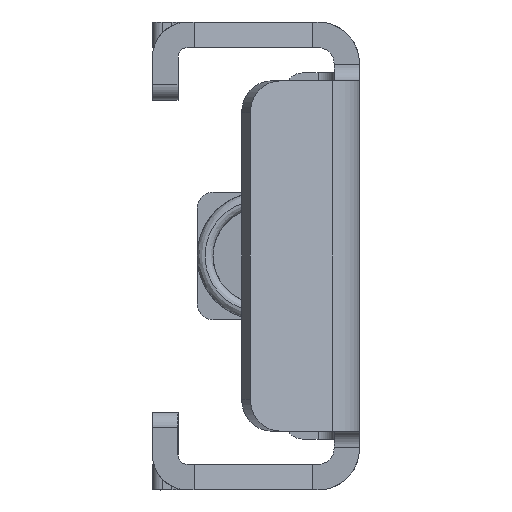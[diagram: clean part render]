
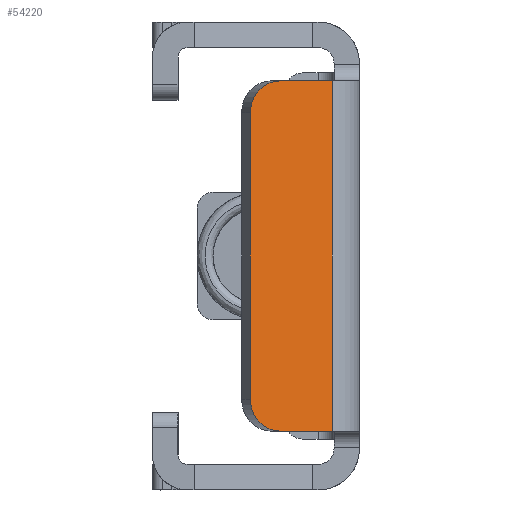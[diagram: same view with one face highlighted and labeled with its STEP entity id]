
A CAD part, left-side view. The second image highlights one B-rep face of the part: STEP entity #54220.
In plain terms, the highlighted planar face has unit normal (-0.94, -0.342, 0).
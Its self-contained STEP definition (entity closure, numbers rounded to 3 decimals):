
#37240=CARTESIAN_POINT('',(-38.197,4.726,
0.));
#37250=DIRECTION('',(0.,0.,1.));
#37260=VECTOR('',#37250,1.);
#37270=LINE('',#37240,#37260);
#37280=CARTESIAN_POINT('',(-38.197,4.726,-3.4));
#37290=VERTEX_POINT('',#37280);
#37300=CARTESIAN_POINT('',(-38.197,4.726,5.6));
#37310=VERTEX_POINT('',#37300);
#37320=EDGE_CURVE('',#37290,#37310,#37270,.T.);
#51780=CARTESIAN_POINT('',(-37.261,2.155,6.6));
#51790=VERTEX_POINT('',#51780);
#51820=CARTESIAN_POINT('',(-37.261,2.155,6.6));
#51830=DIRECTION('',(0.342,-0.94,
0.));
#51840=VECTOR('',#51830,1.);
#51850=LINE('',#51820,#51840);
#51860=CARTESIAN_POINT('',(-37.855,3.787,6.6));
#51870=VERTEX_POINT('',#51860);
#51880=EDGE_CURVE('',#51870,#51790,#51850,.T.);
#53730=CARTESIAN_POINT('',(-37.855,3.787,-3.4));
#53740=DIRECTION('',(0.94,0.342,
0.));
#53750=DIRECTION('',(0.342,-0.94,
0.));
#53760=AXIS2_PLACEMENT_3D('',#53730,#53740,#53750);
#53770=CIRCLE('',#53760,1.);
#53780=CARTESIAN_POINT('',(-37.855,3.787,-4.4));
#53790=VERTEX_POINT('',#53780);
#53800=EDGE_CURVE('',#53790,#37290,#53770,.T.);
#53910=CARTESIAN_POINT('',(-36.919,1.214,6.6));
#53920=DIRECTION('',(-0.94,-0.342,
0.));
#53930=DIRECTION('',(-0.342,0.94,
0.));
#53940=AXIS2_PLACEMENT_3D('',#53910,#53920,#53930);
#53950=PLANE('',#53940);
#53960=CARTESIAN_POINT('',(-37.261,2.155,-4.4));
#53970=DIRECTION('',(0.342,-0.94,
0.));
#53980=VECTOR('',#53970,1.);
#53990=LINE('',#53960,#53980);
#54000=CARTESIAN_POINT('',(-37.261,2.155,-4.4));
#54010=VERTEX_POINT('',#54000);
#54020=EDGE_CURVE('',#53790,#54010,#53990,.T.);
#54030=ORIENTED_EDGE('',*,*,#54020,.T.);
#54040=ORIENTED_EDGE('',*,*,#53800,.F.);
#54050=ORIENTED_EDGE('',*,*,#37320,.F.);
#54060=CARTESIAN_POINT('',(-37.855,3.787,5.6));
#54070=DIRECTION('',(0.94,0.342,
0.));
#54080=DIRECTION('',(0.342,-0.94,
0.));
#54090=AXIS2_PLACEMENT_3D('',#54060,#54070,#54080);
#54100=CIRCLE('',#54090,1.);
#54110=EDGE_CURVE('',#37310,#51870,#54100,.T.);
#54120=ORIENTED_EDGE('',*,*,#54110,.F.);
#54130=ORIENTED_EDGE('',*,*,#51880,.F.);
#54140=CARTESIAN_POINT('',(-37.261,2.155,
0.));
#54150=DIRECTION('',(0.,0.,1.));
#54160=VECTOR('',#54150,1.);
#54170=LINE('',#54140,#54160);
#54180=EDGE_CURVE('',#54010,#51790,#54170,.T.);
#54190=ORIENTED_EDGE('',*,*,#54180,.T.);
#54200=EDGE_LOOP('',(#54190,#54130,#54120,#54050,#54040,#54030));
#54210=FACE_OUTER_BOUND('',#54200,.T.);
#54220=ADVANCED_FACE('',(#54210),#53950,.T.);
